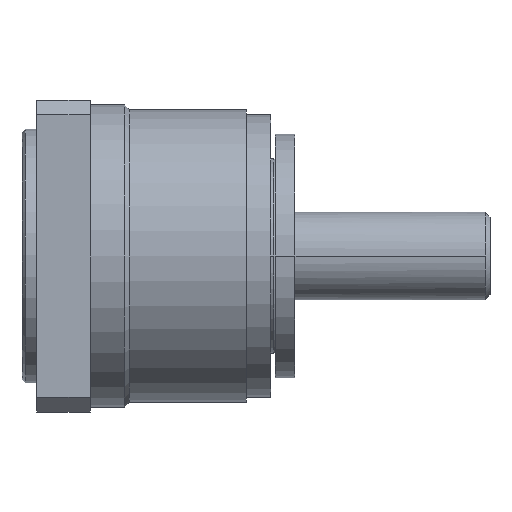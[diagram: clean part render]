
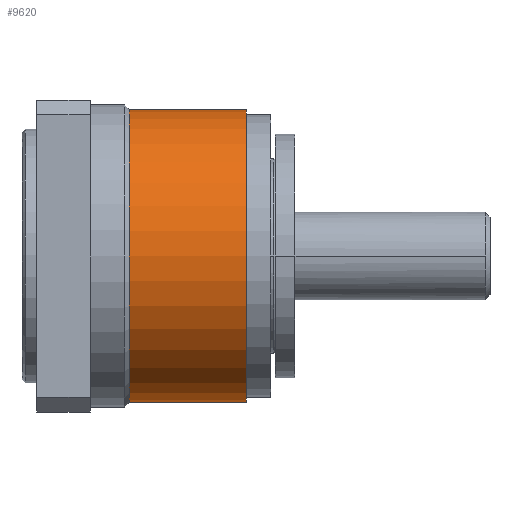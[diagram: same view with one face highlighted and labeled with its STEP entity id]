
A CAD part, front view. The second image highlights one B-rep face of the part: STEP entity #9620.
In plain terms, the highlighted cylindrical face has radius 15 mm (diameter 30 mm), a partial arc.
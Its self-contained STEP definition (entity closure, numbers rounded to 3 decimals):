
#202 = CARTESIAN_POINT ( 'NONE',  ( 21.5, 0., -15. ) ) ;
#329 = EDGE_CURVE ( 'NONE', #8072, #8745, #5873, .T. ) ;
#404 = CYLINDRICAL_SURFACE ( 'NONE', #8624, 15. ) ;
#614 = EDGE_CURVE ( 'NONE', #5709, #9896, #10034, .T. ) ;
#1435 = DIRECTION ( 'NONE',  ( 0., 0., -1. ) ) ;
#1978 = ORIENTED_EDGE ( 'NONE', *, *, #614, .T. ) ;
#2698 = EDGE_CURVE ( 'NONE', #8745, #9896, #8389, .T. ) ;
#2727 = DIRECTION ( 'NONE',  ( 1., 0., 0. ) ) ;
#2788 = DIRECTION ( 'NONE',  ( 1., 0., 0. ) ) ;
#2979 = FACE_OUTER_BOUND ( 'NONE', #7504, .T. ) ;
#3534 = DIRECTION ( 'NONE',  ( 1., 0., 0. ) ) ;
#3786 = CARTESIAN_POINT ( 'NONE',  ( 9.5, 0., 0. ) ) ;
#4586 = ORIENTED_EDGE ( 'NONE', *, *, #329, .F. ) ;
#4671 = DIRECTION ( 'NONE',  ( 0., 0., -1. ) ) ;
#4814 = CIRCLE ( 'NONE', #7234, 15. ) ;
#5234 = CARTESIAN_POINT ( 'NONE',  ( 9.5, 0., 15. ) ) ;
#5308 = CARTESIAN_POINT ( 'NONE',  ( 9.5, 0., 15. ) ) ;
#5335 = CARTESIAN_POINT ( 'NONE',  ( 21.5, 0., 15. ) ) ;
#5614 = VECTOR ( 'NONE', #2788, 1000. ) ;
#5709 = VERTEX_POINT ( 'NONE', #8737 ) ;
#5873 = LINE ( 'NONE', #5308, #5614 ) ;
#5903 = ORIENTED_EDGE ( 'NONE', *, *, #8224, .T. ) ;
#5945 = ORIENTED_EDGE ( 'NONE', *, *, #2698, .F. ) ;
#7234 = AXIS2_PLACEMENT_3D ( 'NONE', #3786, #9802, #4671 ) ;
#7483 = CARTESIAN_POINT ( 'NONE',  ( 9.5, 0., 0. ) ) ;
#7504 = EDGE_LOOP ( 'NONE', ( #4586, #5903, #1978, #5945 ) ) ;
#7638 = AXIS2_PLACEMENT_3D ( 'NONE', #8713, #3534, #9574 ) ;
#7905 = CARTESIAN_POINT ( 'NONE',  ( 9.5, 0., -15. ) ) ;
#8072 = VERTEX_POINT ( 'NONE', #5234 ) ;
#8224 = EDGE_CURVE ( 'NONE', #8072, #5709, #4814, .T. ) ;
#8389 = CIRCLE ( 'NONE', #7638, 15. ) ;
#8624 = AXIS2_PLACEMENT_3D ( 'NONE', #7483, #9215, #1435 ) ;
#8713 = CARTESIAN_POINT ( 'NONE',  ( 21.5, 0., 0. ) ) ;
#8737 = CARTESIAN_POINT ( 'NONE',  ( 9.5, 0., -15. ) ) ;
#8745 = VERTEX_POINT ( 'NONE', #5335 ) ;
#9215 = DIRECTION ( 'NONE',  ( 1., 0., 0. ) ) ;
#9574 = DIRECTION ( 'NONE',  ( 0., 0., -1. ) ) ;
#9620 = ADVANCED_FACE ( 'NONE', ( #2979 ), #404, .T. ) ;
#9802 = DIRECTION ( 'NONE',  ( 1., 0., 0. ) ) ;
#9896 = VERTEX_POINT ( 'NONE', #202 ) ;
#10034 = LINE ( 'NONE', #7905, #10585 ) ;
#10585 = VECTOR ( 'NONE', #2727, 1000. ) ;
